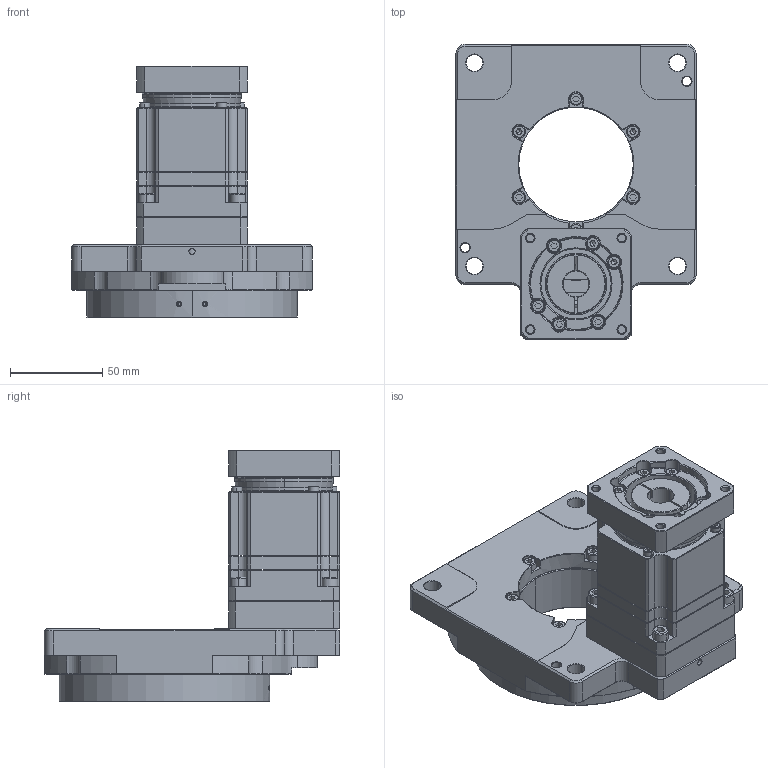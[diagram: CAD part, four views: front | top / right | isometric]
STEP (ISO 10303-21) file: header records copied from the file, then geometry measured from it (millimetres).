
FILE_DESCRIPTION (( 'STEP AP203' ), '1' );
FILE_NAME ('2.STEP', '2022-08-10T02:10:14', ( '' ), ( '' ), 'SwSTEP 2.0', 'SolidWorks 2020', '' );
FILE_SCHEMA (( 'CONFIG_CONTROL_DESIGN' ));
Length unit declared in the file: millimetre
Products named in the file (1): 2
Bounding box: 130 x 159.8 x 136.3 mm (x, y, z)
Surface area: 113571.4 mm2 (no closed solid volume)
Topology: 0 solids, 46 shells, 887 faces, 2467 edges, 1565 vertices
Faces by surface type: plane 347, cone 257, cylinder 218, torus 55, bspline 10
Entity records: 28704 total; most frequent: CARTESIAN_POINT 6218, DIRECTION 4895, ORIENTED_EDGE 4220, EDGE_CURVE 2441, AXIS2_PLACEMENT_3D 1861, VERTEX_POINT 1565, LINE 1173, VECTOR 1173
